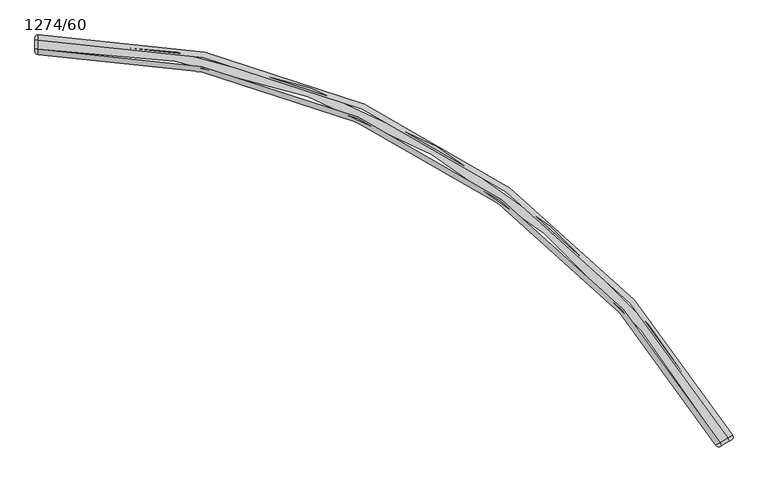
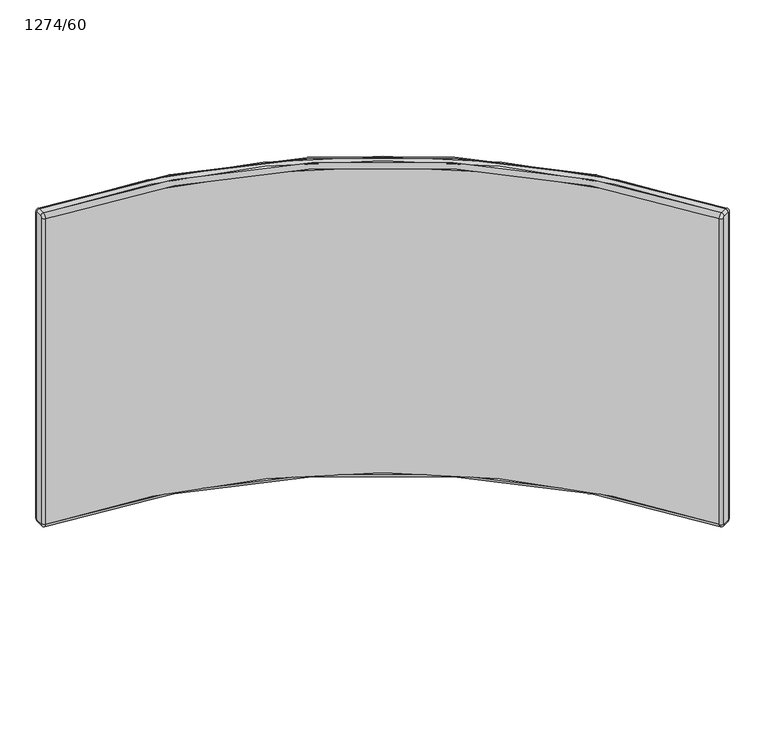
"""IFC4 building model written with IfcOpenShell, lengths in millimetres: furniture geometry, Laguna-Panel-Curve_Inside-ERG : 1274/60."""

from ifc_helpers import new_model, si_unit, point, frame, origin, place, context, project, spatial, polyline, circle_curve, ellipse_curve, trimmed, source, transform, mapped, element, save
from ifc_brep_helpers import plane_surface, cylinder_surface, revolved_surface, advanced_brep


def furniture_1274_60_47fa7cde(model_context):
    return source(origin(), model_context, "Body", "AdvancedBrep", [
        advanced_brep(
        [(-3478.5381962, 710.5208734, 1056.64), (-3476.2139349, 719.1951347, 1056.64), (-3485.012753, 714.1151347, 1066.8), (-3481.837753, 708.6158734, 1060.45), (-3500.433635, 705.2118843, 1066.8), (-3497.258635, 699.712623, 1060.45), (-3509.2324531, 700.1318843, 1056.64), (-3500.5581918, 697.807623, 1056.64), (-3509.2324531, 700.1318843, 213.36), (-3500.5581918, 697.807623, 213.36), (-3500.433635, 705.2118843, 203.2), (-3497.258635, 699.712623, 209.55), (-3485.012753, 714.1151347, 203.2), (-3481.837753, 708.6158734, 209.55), (-3476.2139349, 719.1951347, 213.36), (-3478.5381962, 710.5208734, 213.36), (-4826.5553779, 1498.8151303, 1056.64), (-4826.5553779, 1488.6551303, 1066.8), (-4826.5553779, 1498.8151303, 213.36), (-4826.5553779, 1488.6551303, 203.2), (-4826.5553779, 1470.8486296, 203.2), (-4826.5553779, 1460.6886296, 213.36), (-4826.5553779, 1460.6886296, 1056.64), (-4826.5553779, 1470.8486296, 1066.8), (-4832.9053779, 1467.0386296, 1056.64), (-4832.9053779, 1470.8486296, 1060.45), (-4832.9053779, 1488.6551303, 1060.45), (-4832.9053779, 1492.4651303, 1056.64), (-4832.9053779, 1492.4651303, 213.36), (-4832.9053779, 1488.6551303, 209.55), (-4832.9053779, 1470.8486296, 209.55), (-4832.9053779, 1467.0386296, 213.36)],
        [
            (0, 1, circle_curve(frame((-3481.7131962, 716.0201347, 1056.64), z_axis=(0.0, 0.0, 1.0000000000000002), x_axis=(-0.866025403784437, -0.500000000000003, 0.0)), 6.35)),
            (1, 2, circle_curve(frame((-3485.012753, 714.1151347, 1056.64), z_axis=(0.5000000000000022, -0.8660254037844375, 0.0), x_axis=(0.8660254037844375, 0.5000000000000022, 0.0)), 10.16)),
            (2, 3, circle_curve(frame((-3485.012753, 714.1151347, 1060.45), z_axis=(0.8660254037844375, 0.5000000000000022, 0.0), x_axis=(0.0, 0.0, -1.0000000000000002)), 6.35)),
            (3, 0, circle_curve(frame((-3481.837753, 708.6158734, 1056.64), z_axis=(-0.5000000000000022, 0.8660254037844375, 0.0), x_axis=(0.8660254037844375, 0.5000000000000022, 0.0)), 3.81)),
            (2, 4),
            (4, 5, circle_curve(frame((-3500.433635, 705.2118843, 1060.45), z_axis=(0.8660254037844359, 0.5000000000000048, 0.0), x_axis=(0.0, 0.0, -1.0)), 6.35)),
            (5, 3),
            (4, 6, circle_curve(frame((-3500.433635, 705.2118843, 1056.64), z_axis=(0.5000000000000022, -0.8660254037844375, 0.0), x_axis=(0.0, 0.0, 1.0)), 10.16)),
            (6, 7, circle_curve(frame((-3503.7331918, 703.3068843, 1056.64), z_axis=(0.0, 0.0, 1.0), x_axis=(0.8660254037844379, 0.5000000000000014, 0.0)), 6.35)),
            (7, 5, circle_curve(frame((-3497.258635, 699.712623, 1056.64), z_axis=(-0.5000000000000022, 0.8660254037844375, 0.0), x_axis=(0.0, 0.0, 1.0)), 3.81)),
            (6, 8),
            (8, 9, circle_curve(frame((-3503.7331918, 703.3068843, 213.36), z_axis=(0.0, 0.0, 1.0), x_axis=(0.8660254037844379, 0.5000000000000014, 0.0)), 6.35)),
            (9, 7),
            (8, 10, circle_curve(frame((-3500.433635, 705.2118843, 213.36), z_axis=(0.5000000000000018, -0.8660254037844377, 0.0), x_axis=(-0.8660254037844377, -0.5000000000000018, 0.0)), 10.16)),
            (10, 11, circle_curve(frame((-3500.433635, 705.2118843, 209.55), z_axis=(-0.8660254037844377, -0.5000000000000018, 0.0), x_axis=(0.0, 0.0, 1.0)), 6.35)),
            (11, 9, circle_curve(frame((-3497.258635, 699.712623, 213.36), z_axis=(-0.5000000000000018, 0.8660254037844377, 0.0), x_axis=(-0.8660254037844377, -0.5000000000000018, 0.0)), 3.81)),
            (10, 12),
            (12, 13, circle_curve(frame((-3485.012753, 714.1151347, 209.55), z_axis=(-0.8660254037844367, -0.5000000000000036, 0.0), x_axis=(0.0, 0.0, 1.0)), 6.35)),
            (13, 11),
            (12, 14, circle_curve(frame((-3485.012753, 714.1151347, 213.36), z_axis=(0.5000000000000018, -0.8660254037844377, 0.0), x_axis=(0.0, 0.0, -1.0)), 10.16)),
            (14, 15, circle_curve(frame((-3481.7131962, 716.0201347, 213.36), z_axis=(0.0, 0.0, -1.0), x_axis=(-0.8660254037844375, -0.5000000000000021, 0.0)), 6.35)),
            (15, 13, circle_curve(frame((-3481.837753, 708.6158734, 213.36), z_axis=(-0.5000000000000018, 0.8660254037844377, 0.0), x_axis=(0.0, 0.0, -1.0)), 3.81)),
            (0, 15),
            (14, 1),
            (1, 16, circle_curve(frame((-4826.5553779, -60.4248609, 1056.64), z_axis=(0.0, 0.0, 1.0), x_axis=(0.0, 1.0, 0.0)), 1559.2399912)),
            (16, 17, circle_curve(frame((-4826.5553779, 1488.6551303, 1056.64), z_axis=(1.0, 0.0, 0.0), x_axis=(0.0, 1.0, 0.0)), 10.16)),
            (17, 2, circle_curve(frame((-4826.5553779, -60.4248609, 1066.8), z_axis=(0.0, 0.0, -1.0), x_axis=(0.0, 1.0, 0.0)), 1549.0799912)),
            (14, 18, circle_curve(frame((-4826.5553779, -60.4248609, 213.36), z_axis=(0.0, 0.0, 1.0), x_axis=(0.0, 1.0, 0.0)), 1559.2399912)),
            (18, 16),
            (12, 19, circle_curve(frame((-4826.5553779, -60.4248609, 203.2), z_axis=(0.0, 0.0, 1.0), x_axis=(0.0, 1.0, 0.0)), 1549.0799912)),
            (19, 18, circle_curve(frame((-4826.5553779, 1488.6551303, 213.36), z_axis=(1.0, 0.0, 0.0), x_axis=(0.0, 1.0, 0.0)), 10.16)),
            (10, 20, circle_curve(frame((-4826.5553779, -60.4248609, 203.2), z_axis=(0.0, 0.0, 1.0), x_axis=(0.0, 1.0, 0.0)), 1531.2734905)),
            (20, 19),
            (8, 21, circle_curve(frame((-4826.5553779, -60.4248609, 213.36), z_axis=(0.0, 0.0, 1.0), x_axis=(0.0, 1.0, 0.0)), 1521.1134905)),
            (21, 20, circle_curve(frame((-4826.5553779, 1470.8486296, 213.36), z_axis=(1.0, 0.0, 0.0), x_axis=(0.0, 1.0, 0.0)), 10.16)),
            (6, 22, circle_curve(frame((-4826.5553779, -60.4248609, 1056.64), z_axis=(0.0, 0.0, 1.0), x_axis=(0.0, 1.0, 0.0)), 1521.1134905)),
            (22, 21),
            (4, 23, circle_curve(frame((-4826.5553779, -60.4248609, 1066.8), z_axis=(0.0, 0.0, 1.0), x_axis=(0.0, 1.0, 0.0)), 1531.2734905)),
            (23, 22, circle_curve(frame((-4826.5553779, 1470.8486296, 1056.64), z_axis=(1.0, 0.0, 0.0), x_axis=(0.0, 1.0, 0.0)), 10.16)),
            (17, 23),
            (24, 22, circle_curve(frame((-4826.5553779, 1467.0386296, 1056.64), z_axis=(0.0, 0.0, 1.0), x_axis=(0.0, 1.0, 0.0)), 6.35)),
            (23, 25, circle_curve(frame((-4826.5553779, 1470.8486296, 1060.45), z_axis=(0.0, -1.0, 0.0), x_axis=(0.0, 0.0, -1.0)), 6.35)),
            (25, 24, circle_curve(frame((-4832.9053779, 1470.8486296, 1056.64), z_axis=(1.0, 0.0, 0.0), x_axis=(0.0, -1.0, 0.0)), 3.81)),
            (17, 26, circle_curve(frame((-4826.5553779, 1488.6551303, 1060.45), z_axis=(0.0, -1.0, 0.0), x_axis=(0.0, 0.0, -1.0)), 6.35)),
            (26, 25),
            (16, 27, circle_curve(frame((-4826.5553779, 1492.4651303, 1056.64), z_axis=(0.0, 0.0, 1.0), x_axis=(0.0, -1.0, 0.0)), 6.35)),
            (27, 26, circle_curve(frame((-4832.9053779, 1488.6551303, 1056.64), z_axis=(1.0, 0.0, 0.0), x_axis=(0.0, 0.0, 1.0)), 3.81)),
            (18, 28, circle_curve(frame((-4826.5553779, 1492.4651303, 213.36), z_axis=(0.0, 0.0, 1.0), x_axis=(0.0, -1.0, 0.0)), 6.35)),
            (28, 27),
            (19, 29, circle_curve(frame((-4826.5553779, 1488.6551303, 209.55), z_axis=(0.0, 1.0, 0.0), x_axis=(0.0, 0.0, 1.0)), 6.35)),
            (29, 28, circle_curve(frame((-4832.9053779, 1488.6551303, 213.36), z_axis=(1.0, 0.0, 0.0), x_axis=(0.0, 1.0, 0.0)), 3.81)),
            (20, 30, circle_curve(frame((-4826.5553779, 1470.8486296, 209.55), z_axis=(0.0, 1.0, 0.0), x_axis=(0.0, 0.0, 1.0)), 6.35)),
            (30, 29),
            (21, 31, circle_curve(frame((-4826.5553779, 1467.0386296, 213.36), z_axis=(0.0, 0.0, -1.0), x_axis=(0.0, 1.0, 0.0)), 6.35)),
            (31, 30, circle_curve(frame((-4832.9053779, 1470.8486296, 213.36), z_axis=(1.0, 0.0, 0.0), x_axis=(0.0, 0.0, -1.0)), 3.81)),
            (24, 31),
        ],
        [
            revolved_surface(trimmed(ellipse_curve(frame((-3481.7131962, 716.0201347, 1056.64), z_axis=(0.0, 0.0, -1.0000000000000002), x_axis=(-0.866025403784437, -0.500000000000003, 0.0)), 6.35, 6.35), [point((-3476.2139349, 719.1951347, 1056.64))], [point((-3478.5381962, 710.5208734, 1056.64))], True, "CARTESIAN"), (-3485.012753, 714.1151347, 1056.64), (0.5000000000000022, -0.8660254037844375, 0.0)),
            cylinder_surface(frame((-3485.012753, 714.1151347, 1060.45), z_axis=(0.8660254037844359, 0.5000000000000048, 0.0), x_axis=(0.0, 0.0, -1.0)), 6.35),
            revolved_surface(trimmed(ellipse_curve(frame((-3500.433635, 705.2118843, 1060.45), z_axis=(0.8660254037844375, 0.5000000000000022, 0.0), x_axis=(0.0, 0.0, -1.0)), 6.35, 6.35), [point((-3500.433635, 705.2118843, 1066.8))], [point((-3497.258635, 699.712623, 1060.45))], True, "CARTESIAN"), (-3500.433635, 705.2118843, 1056.64), (0.5000000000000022, -0.8660254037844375, 0.0)),
            cylinder_surface(frame((-3503.7331918, 703.3068843, 1056.64), z_axis=(0.0, 0.0, 1.0000000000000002), x_axis=(0.8660254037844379, 0.5000000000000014, 0.0)), 6.35),
            revolved_surface(trimmed(ellipse_curve(frame((-3503.7331918, 703.3068843, 213.36), z_axis=(0.0, 0.0, 1.0), x_axis=(0.8660254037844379, 0.5000000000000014, 0.0)), 6.35, 6.35), [point((-3509.2324531, 700.1318843, 213.36))], [point((-3500.5581918, 697.807623, 213.36))], True, "CARTESIAN"), (-3500.433635, 705.2118843, 213.36), (0.5000000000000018, -0.8660254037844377, 0.0)),
            cylinder_surface(frame((-3500.433635, 705.2118843, 209.55), z_axis=(-0.8660254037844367, -0.5000000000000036, 0.0), x_axis=(0.0, 0.0, 1.0)), 6.35),
            revolved_surface(trimmed(ellipse_curve(frame((-3485.012753, 714.1151347, 209.55), z_axis=(-0.8660254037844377, -0.5000000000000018, 0.0), x_axis=(0.0, 0.0, 1.0)), 6.35, 6.35), [point((-3485.012753, 714.1151347, 203.2))], [point((-3481.837753, 708.6158734, 209.55))], True, "CARTESIAN"), (-3485.012753, 714.1151347, 213.36), (0.5000000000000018, -0.8660254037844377, 0.0)),
            cylinder_surface(frame((-3481.7131962, 716.0201347, 213.36), z_axis=(0.0, 0.0, -1.0), x_axis=(-0.8660254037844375, -0.5000000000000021, 0.0)), 6.35),
            plane_surface(frame((-3500.5581918, 697.807623, 213.36), z_axis=(0.5000000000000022, -0.8660254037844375, 0.0), x_axis=(0.0, 0.0, -1.0))),
            revolved_surface(trimmed(ellipse_curve(frame((-4826.5553779, 1488.6551303, 1056.64), z_axis=(-1.0, 0.0, 0.0), x_axis=(0.0, 1.0, 0.0)), 10.16, 10.16), [point((-4826.5553779, 1488.6551303, 1066.8))], [point((-4826.5553779, 1498.8151303, 1056.64))], True, "CARTESIAN"), (-4826.5553779, -60.4248609, 0.0), (0.0, 0.0, -1.0)),
            cylinder_surface(frame((-4826.5553779, -60.4248609, 0.0), z_axis=(0.0, 0.0, -1.0), x_axis=(0.0, 1.0, 0.0)), 1559.2399912),
            revolved_surface(trimmed(ellipse_curve(frame((-4826.5553779, 1488.6551303, 213.36), z_axis=(-1.0, 0.0, 0.0), x_axis=(0.0, 1.0, 0.0)), 10.16, 10.16), [point((-4826.5553779, 1498.8151303, 213.36))], [point((-4826.5553779, 1488.6551303, 203.2))], True, "CARTESIAN"), (-4826.5553779, -60.4248609, 0.0), (0.0, 0.0, -1.0)),
            plane_surface(frame((-4826.5553779, -60.4248609, 203.2), z_axis=(0.0, 0.0, -1.0), x_axis=(0.0, 1.0, 0.0))),
            revolved_surface(trimmed(ellipse_curve(frame((-4826.5553779, 1470.8486296, 213.36), z_axis=(-1.0, 0.0, 0.0), x_axis=(0.0, 1.0, 0.0)), 10.16, 10.16), [point((-4826.5553779, 1470.8486296, 203.2))], [point((-4826.5553779, 1460.6886296, 213.36))], True, "CARTESIAN"), (-4826.5553779, -60.4248609, 0.0), (0.0, 0.0, -1.0)),
            revolved_surface(polyline([(-4826.5553779, 1460.6886295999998, 213.36), (-4826.5553779, 1460.6886295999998, 1056.64)]), (-4826.5553779, -60.4248609, 0.0), (0.0, 0.0, -1.0)),
            revolved_surface(trimmed(ellipse_curve(frame((-4826.5553779, 1470.8486296, 1056.64), z_axis=(-1.0, 0.0, 0.0), x_axis=(0.0, 1.0, 0.0)), 10.16, 10.16), [point((-4826.5553779, 1460.6886296, 1056.64))], [point((-4826.5553779, 1470.8486296, 1066.8))], True, "CARTESIAN"), (-4826.5553779, -60.4248609, 0.0), (0.0, 0.0, -1.0)),
            plane_surface(frame((-4826.5553779, -60.4248609, 1066.8), z_axis=(0.0, 0.0, 1.0), x_axis=(0.0, 1.0, 0.0))),
            revolved_surface(trimmed(ellipse_curve(frame((-4826.5553779, 1467.0386296, 1056.64), z_axis=(0.0, 0.0, -1.0), x_axis=(0.0, 1.0, 0.0)), 6.35, 6.35), [point((-4826.5553779, 1460.6886296, 1056.64))], [point((-4832.9053779, 1467.0386296, 1056.64))], True, "CARTESIAN"), (-4826.5553779, 1470.8486296, 1056.64), (-1.0, 0.0, 0.0)),
            cylinder_surface(frame((-4826.5553779, 1470.8486296, 1060.45), z_axis=(0.0, -1.0, 0.0), x_axis=(0.0, 0.0, -1.0)), 6.35),
            revolved_surface(trimmed(ellipse_curve(frame((-4826.5553779, 1488.6551303, 1060.45), z_axis=(0.0, -1.0, 0.0), x_axis=(0.0, 0.0, -1.0)), 6.35, 6.35), [point((-4826.5553779, 1488.6551303, 1066.8))], [point((-4832.9053779, 1488.6551303, 1060.45))], True, "CARTESIAN"), (-4826.5553779, 1488.6551303, 1056.64), (-1.0, 0.0, 0.0)),
            cylinder_surface(frame((-4826.5553779, 1492.4651303, 1056.64), z_axis=(0.0, 0.0, 1.0), x_axis=(0.0, -1.0, 0.0)), 6.35),
            revolved_surface(trimmed(ellipse_curve(frame((-4826.5553779, 1492.4651303, 213.36), z_axis=(0.0, 0.0, 1.0), x_axis=(0.0, -1.0, 0.0)), 6.35, 6.35), [point((-4826.5553779, 1498.8151303, 213.36))], [point((-4832.9053779, 1492.4651303, 213.36))], True, "CARTESIAN"), (-4826.5553779, 1488.6551303, 213.36), (-1.0, 0.0, 0.0)),
            cylinder_surface(frame((-4826.5553779, 1488.6551303, 209.55), z_axis=(0.0, 1.0, 0.0), x_axis=(0.0, 0.0, 1.0)), 6.35),
            revolved_surface(trimmed(ellipse_curve(frame((-4826.5553779, 1470.8486296, 209.55), z_axis=(0.0, 1.0, 0.0), x_axis=(0.0, 0.0, 1.0)), 6.35, 6.35), [point((-4826.5553779, 1470.8486296, 203.2))], [point((-4832.9053779, 1470.8486296, 209.55))], True, "CARTESIAN"), (-4826.5553779, 1470.8486296, 213.36), (-1.0, 0.0, 0.0)),
            cylinder_surface(frame((-4826.5553779, 1467.0386296, 213.36), z_axis=(0.0, 0.0, -1.0), x_axis=(0.0, 1.0, 0.0)), 6.35),
            plane_surface(frame((-4832.9053779, 1492.4651303, 213.36), z_axis=(-1.0, 0.0, 0.0), x_axis=(0.0, 0.0, -1.0))),
        ],
        [
            (0, [[1, 2, 3, 4]]),
            (1, [[-3, 5, 6, 7]]),
            (2, [[-6, 8, 9, 10]]),
            (3, [[-9, 11, 12, 13]]),
            (4, [[-12, 14, 15, 16]]),
            (5, [[-15, 17, 18, 19]]),
            (6, [[-18, 20, 21, 22]]),
            (7, [[-1, 23, -21, 24]]),
            (8, [[-4, -7, -10, -13, -16, -19, -22, -23]]),
            (9, [[25, 26, 27, -2]]),
            (10, [[-25, -24, 28, 29]]),
            (11, [[-28, -20, 30, 31]]),
            (12, [[-30, -17, 32, 33]]),
            (13, [[-32, -14, 34, 35]]),
            (14, [[-34, -11, 36, 37]]),
            (15, [[-36, -8, 38, 39]]),
            (16, [[-27, 40, -38, -5]]),
            (17, [[41, -39, 42, 43]]),
            (18, [[-42, -40, 44, 45]]),
            (19, [[-44, -26, 46, 47]]),
            (20, [[-46, -29, 48, 49]]),
            (21, [[-48, -31, 50, 51]]),
            (22, [[-50, -33, 52, 53]]),
            (23, [[-52, -35, 54, 55]]),
            (24, [[-41, 56, -54, -37]]),
            (25, [[-43, -45, -47, -49, -51, -53, -55, -56]]),
        ],
    ),
    ])


if __name__ == "__main__":
    model = new_model("IFC4")
    model_context = context("Model", 3, world=origin())
    ifc_project = project(units=[si_unit("LENGTHUNIT", "METRE", prefix="MILLI")], contexts=[model_context])
    site = spatial("IfcSite", under=ifc_project)
    building = spatial("IfcBuilding", under=site)
    placement = place(None, origin())
    furniture_1274_60_shape = furniture_1274_60_47fa7cde(model_context)
    element("IfcFurniture", 1, ObjectType="Laguna-Panel-Curve_Inside-ERG : 1274/60", at=placement, inside=building, context=model_context, shape_type="MappedRepresentation", body=[
        mapped(furniture_1274_60_shape, transform((0.0, 0.0, 0.0), x_axis=(1.0, 0.0, 0.0), y_axis=(0.0, 1.0, 0.0), z_axis=(0.0, 0.0, 1.0))),
    ])
    save(model, "model.ifc")
